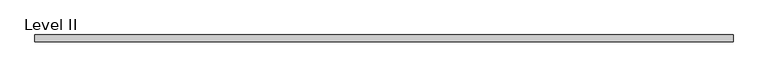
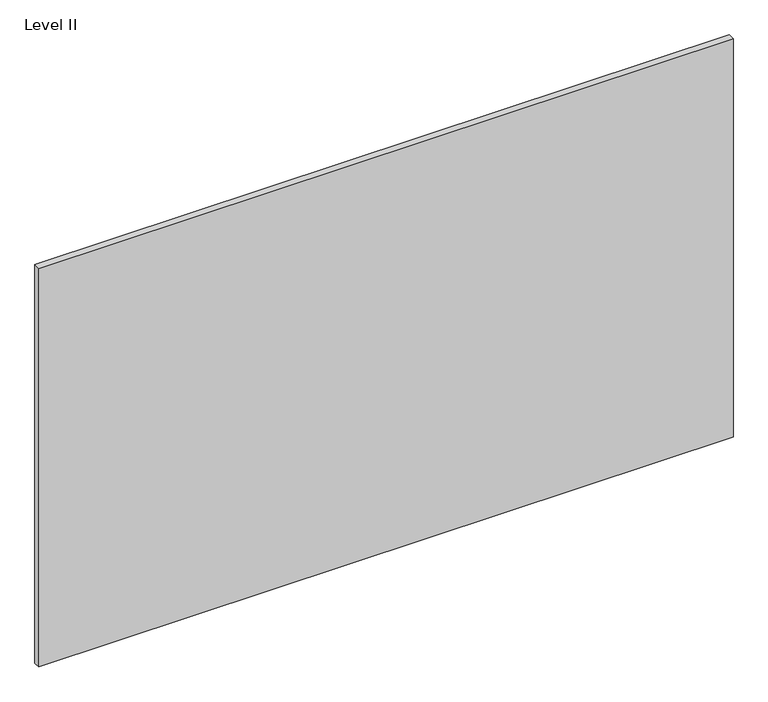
"""IFC4 building model written with IfcOpenShell, lengths in millimetres: proxy geometry, Panel-Fascia-Teknion-Altos-Landscape : Level II."""

from ifc_helpers import new_model, si_unit, frame, origin, place, context, project, spatial, polyline, outline, extrude, source, transform, mapped, element, save


def level_ii_0c7391c9(model_context):
    return source(origin(), model_context, "Body", "SweptSolid", [
        extrude(outline(polyline([(998.8407125, -9.525), (-998.8407125, -9.525), (-998.8407125, 9.525), (998.8407125, 9.525), (998.8407125, -9.525)])), frame((0.0, 0.0, 3.175), z_axis=(0.0, 0.0, 1.0), x_axis=(1.0, 0.0, 0.0)), (0.0, 0.0, 1.0), 1212.85),
    ])


if __name__ == "__main__":
    model = new_model("IFC4")
    model_context = context("Model", 3, world=origin())
    ifc_project = project(units=[si_unit("LENGTHUNIT", "METRE", prefix="MILLI")], contexts=[model_context])
    site = spatial("IfcSite", under=ifc_project)
    building = spatial("IfcBuilding", under=site)
    placement = place(None, origin())
    level_ii_shape = level_ii_0c7391c9(model_context)
    element("IfcBuildingElementProxy", 1, Name="Panel-Fascia-Teknion-Altos-Landscape : Level II", ObjectType="Panel-Fascia-Teknion-Altos-Landscape : Level II", at=placement, inside=building, context=model_context, shape_type="MappedRepresentation", body=[
        mapped(level_ii_shape, transform((0.0, 0.0, 0.0), x_axis=(1.0, 0.0, 0.0), y_axis=(0.0, 1.0, 0.0), z_axis=(0.0, 0.0, 1.0))),
    ])
    save(model, "model.ifc")
